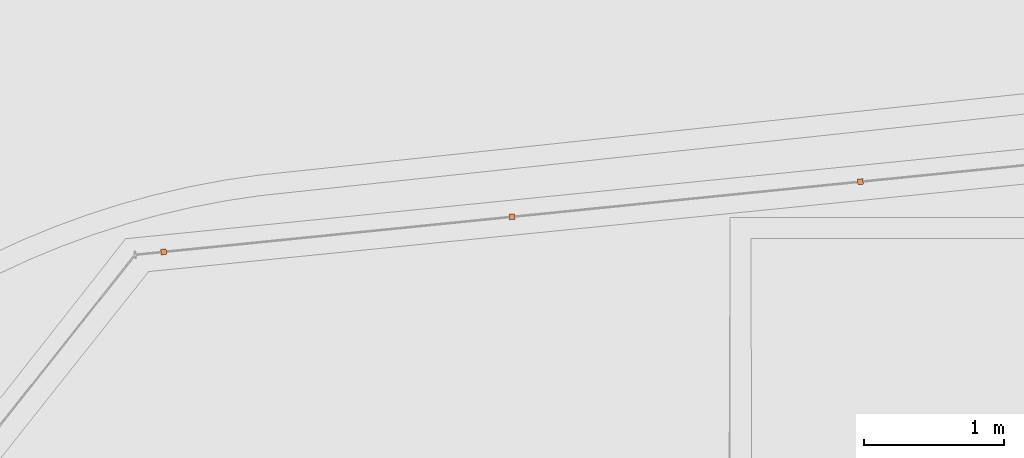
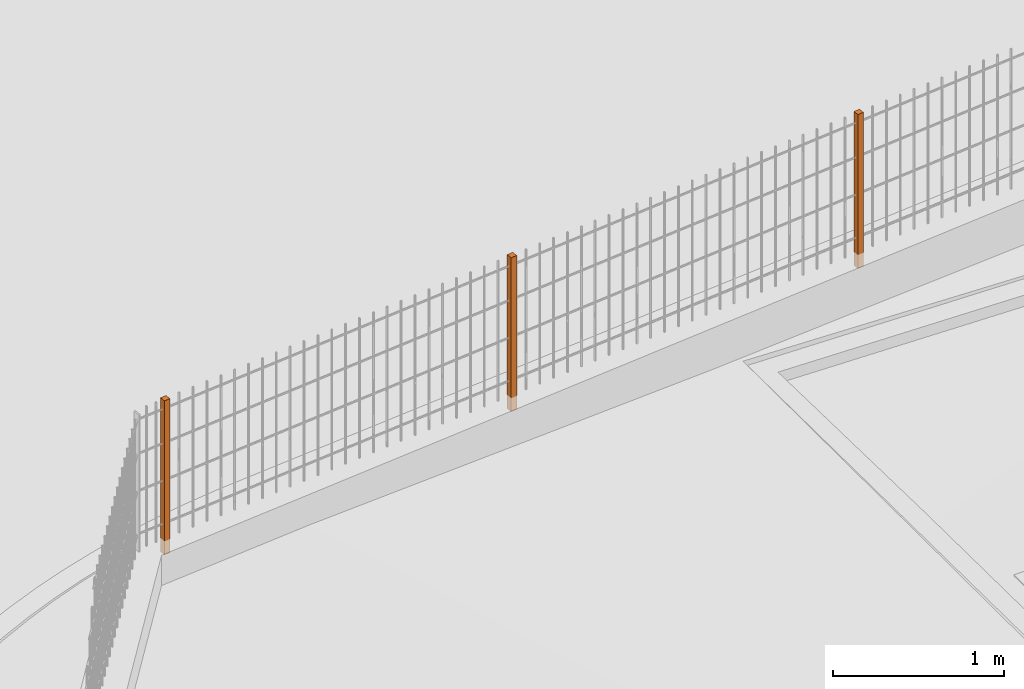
# One storey, part 48 of 1809: 3 proxies, 1 element without a shape of its own.
"""IFC2X3 building model written with IfcOpenShell, lengths in millimetres."""

from ifc_helpers import new_model, entity, si_unit, converted_unit, derived_unit, money_unit, direction, frame, origin_with_axes, place, context, subcontext, project, spatial, faceted_brep, source, transform, mapped, material, type_object, element, aggregate, save


model = new_model("IFC2X3")

# Units and contexts
model_context = context("Model", 3, precision=0.01, world=origin_with_axes(), true_north=direction((0.0, 1.0)))
body_context = subcontext(model_context, "Body", "Model", "MODEL_VIEW")
ifc_project = project(units=[si_unit("LENGTHUNIT", "METRE", prefix="MILLI"), si_unit("AREAUNIT", "SQUARE_METRE"), si_unit("VOLUMEUNIT", "CUBIC_METRE"), converted_unit("PLANEANGLEUNIT", "DEGREE", entity("IfcPlaneAngleMeasure", 0.0174532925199), si_unit("PLANEANGLEUNIT", "RADIAN"), dimensions=[0, 0, 0, 0, 0, 0, 0]), si_unit("SOLIDANGLEUNIT", "STERADIAN"), money_unit("EUR"), converted_unit("TIMEUNIT", "Year", entity("IfcTimeMeasure", 31556926.0), si_unit("TIMEUNIT", "SECOND"), dimensions=[0, 0, 1, 0, 0, 0, 0]), si_unit("MASSUNIT", "GRAM", prefix="KILO"), si_unit("THERMODYNAMICTEMPERATUREUNIT", "DEGREE_CELSIUS"), si_unit("LUMINOUSINTENSITYUNIT", "LUMEN"), si_unit("ENERGYUNIT", "JOULE", prefix="MEGA"), derived_unit("THERMALCONDUCTANCEUNIT", [(si_unit("POWERUNIT", "WATT"), 1), (si_unit("LENGTHUNIT", "METRE"), -1), (si_unit("THERMODYNAMICTEMPERATUREUNIT", "KELVIN"), -1)]), derived_unit("SPECIFICHEATCAPACITYUNIT", [(si_unit("ENERGYUNIT", "JOULE"), 1), (si_unit("MASSUNIT", "GRAM", prefix="KILO"), -1), (si_unit("THERMODYNAMICTEMPERATUREUNIT", "KELVIN"), -1)]), derived_unit("MASSDENSITYUNIT", [(si_unit("MASSUNIT", "GRAM", prefix="KILO"), 1), (si_unit("VOLUMEUNIT", "CUBIC_METRE"), -1)])], contexts=[model_context])

# Site, building, storey
site_placement = place(None, origin_with_axes())
site = spatial("IfcSite", under=ifc_project, at=site_placement, Name="Politse- ja Piirivalveameti ning Päästeameti ühishoone", CompositionType="ELEMENT")
building_placement = place(site_placement, origin_with_axes())
building = spatial("IfcBuilding", under=site, at=building_placement, Name="Politse- ja Piirivalveameti ning Päästeameti ühishoone", CompositionType="ELEMENT")
storey_placement = place(building_placement, origin_with_axes())
storey = spatial("IfcBuildingStorey", under=building, at=storey_placement, Name="Esimene korrus", CompositionType="ELEMENT", Elevation=0.0)

# Proxies
building_element_proxy_type_1 = type_object("IfcBuildingElementProxyType", Name="Railing Type", PredefinedType="NOTDEFINED")
proxy_1_placement = place(storey_placement, frame((88449.2204314, 58319.144353, 0.0), z_axis=(0.0, 0.0, 1.0), x_axis=(1.0, 0.0, 0.0)))
proxy_1 = element("IfcBuildingElementProxy", 1, at=proxy_1_placement, inside=storey, type_object=building_element_proxy_type_1, Name="PIIRDEAED")
ifc_material = material(Name="Teras - Konstruktsioon")
building_element_proxy_type_2 = type_object("IfcBuildingElementProxyType", Name="IfcBuildingElementProxy", PredefinedType="NOTDEFINED")
shared_shape_1 = source(origin_with_axes(), body_context, "Body", "Brep", [
    faceted_brep([(20.0, 20.0, 0.0), (-20.0, 20.0, 0.0), (-20.0, 20.0, 1100.0), (20.0, 20.0, 1100.0), (20.0, -20.0, 0.0), (-20.0, -20.0, 0.0), (-20.0, -20.0, 1100.0), (20.0, -20.0, 1100.0)], [[[0, 1, 2, 3]], [[0, 4, 5, 1]], [[1, 5, 6, 2]], [[3, 2, 6, 7]], [[4, 0, 3, 7]], [[5, 4, 7, 6]]]),
])
proxy_2_placement = place(proxy_1_placement, frame((-19508.6195094, 23691.3850336, 0.0), z_axis=(0.0, 0.0, 1.0), x_axis=(1.0, 0.0, 0.0)))
proxy_2 = element("IfcBuildingElementProxy", 2, at=proxy_2_placement, type_object=building_element_proxy_type_2, material=ifc_material, Name="SISEPOST - 001", context=body_context, shape_type="MappedRepresentation", body=[
    mapped(shared_shape_1, transform((0.0, 0.0, 0.0), x_axis=(-0.100251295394, 0.994962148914, 0.0), y_axis=(-0.994962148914, -0.100251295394, 0.0), z_axis=(0.0, 0.0, 1.0))),
])
proxy_3_placement = place(proxy_1_placement, frame((-21996.0248816, 23440.7567952, 0.0), z_axis=(0.0, 0.0, 1.0), x_axis=(1.0, 0.0, 0.0)))
proxy_3 = element("IfcBuildingElementProxy", 3, at=proxy_3_placement, type_object=building_element_proxy_type_2, material=ifc_material, Name="SISEPOST - 001", context=body_context, shape_type="MappedRepresentation", body=[
    mapped(shared_shape_1, transform((0.0, 0.0, 0.0), x_axis=(-0.100251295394, 0.994962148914, 0.0), y_axis=(-0.994962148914, -0.100251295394, 0.0), z_axis=(0.0, 0.0, 1.0))),
])
shared_shape_2 = source(origin_with_axes(), body_context, "Body", "Brep", [
    faceted_brep([(20.0, 20.0, 0.0), (-20.0, 20.0, 0.0), (-20.0, 20.0, 1100.0), (20.0, 20.0, 1100.0), (20.0, -20.0, 0.0), (-20.0, -20.0, 0.0), (-20.0, -20.0, 1100.0), (20.0, -20.0, 1100.0)], [[[0, 1, 2, 3]], [[0, 4, 5, 1]], [[1, 5, 6, 2]], [[3, 2, 6, 7]], [[4, 0, 3, 7]], [[5, 4, 7, 6]]]),
])
proxy_4_placement = place(proxy_1_placement, frame((-24483.4302539, 23190.1285567, 0.0), z_axis=(0.0, 0.0, 1.0), x_axis=(1.0, 0.0, 0.0)))
proxy_4 = element("IfcBuildingElementProxy", 4, at=proxy_4_placement, type_object=building_element_proxy_type_2, material=ifc_material, Name="SISEPOST - 001", context=body_context, shape_type="MappedRepresentation", body=[
    mapped(shared_shape_2, transform((0.0, 0.0, 0.0), x_axis=(-0.100251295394, 0.994962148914, 0.0), y_axis=(-0.994962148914, -0.100251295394, 0.0), z_axis=(0.0, 0.0, 1.0))),
])
aggregate(proxy_1, [proxy_2, proxy_3, proxy_4])

save(model, "model.ifc")
